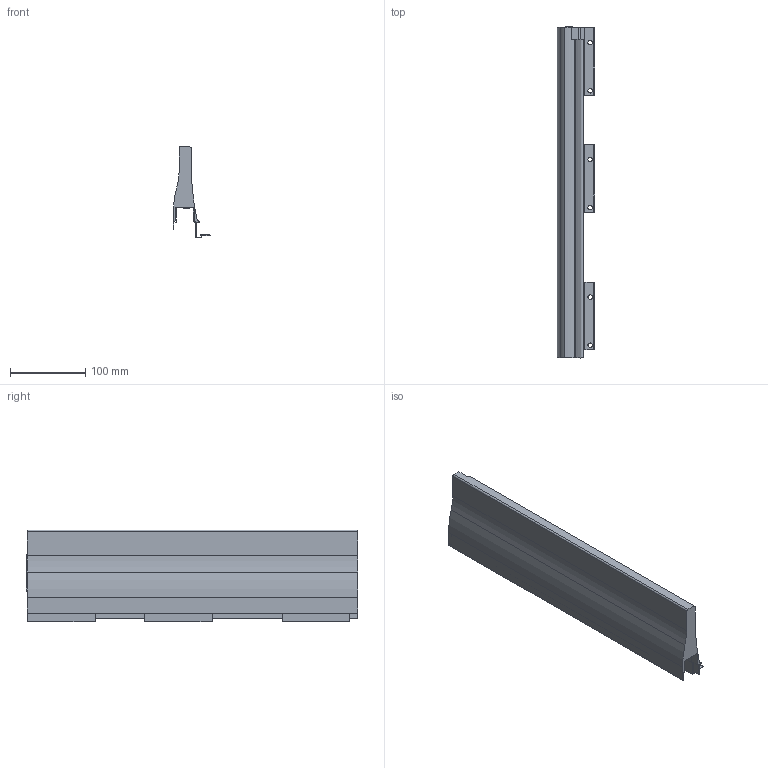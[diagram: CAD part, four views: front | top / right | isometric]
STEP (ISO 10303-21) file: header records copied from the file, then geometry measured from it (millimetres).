
FILE_DESCRIPTION (( 'STEP AP214' ), '1' );
FILE_NAME ('XP Standard Dekorseite H127 NL450 LI .step', '2010-09-21T09:46:25', ( 'grass' ), ( '' ), 'SwSTEP 2.0', 'SolidWorks 2010', '' );
FILE_SCHEMA (( 'AUTOMOTIVE_DESIGN' ));
Length unit declared in the file: millimetre
Products named in the file (1): XP Standard Dekorseite H127 NL450 LI  
Bounding box: 50.01 x 441.5 x 122 mm (x, y, z)
Volume: 763847.7 mm3; surface area: 176002.4 mm2
Topology: 1 solids, 1 shells, 135 faces, 396 edges, 258 vertices
Faces by surface type: plane 105, cylinder 30
Entity records: 4498 total; most frequent: ORIENTED_EDGE 792, CARTESIAN_POINT 790, DIRECTION 730, EDGE_CURVE 396, LINE 334, VECTOR 334, VERTEX_POINT 258, AXIS2_PLACEMENT_3D 198
